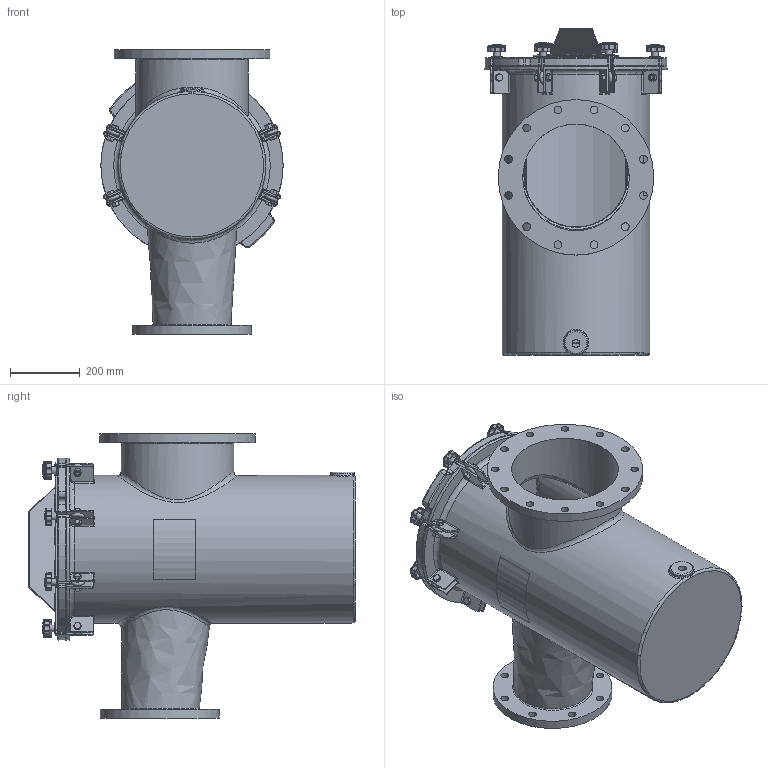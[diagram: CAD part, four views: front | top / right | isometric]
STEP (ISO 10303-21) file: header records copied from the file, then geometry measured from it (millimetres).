
FILE_DESCRIPTION(/* description */ ('300MM X 200MM FIBERGLASS STRAINER BODY'),/* implementation_level */ '2;1');
FILE_NAME(/* name */ 'E:\New folder (7)\Ready for delivery - Do not Disturb -Updated with metric Flange\Workspace\FG Reducing Strainer\Guardian FG Reducing H&L Strainer (Metric)\STRAINER H&L 300MM X 200MM.step',/* time_stamp */ '2016-10-19T04:15:38+06:00',/* author */ ('20076253'),/* organization */ (''),/* preprocessor_version */ 'ST-DEVELOPER v16.1',/* originating_system */ 'Autodesk Inventor 2016',/* authorisation */ '');
FILE_SCHEMA (('AUTOMOTIVE_DESIGN { 1 0 10303 214 3 1 1 }'));
Length unit declared in the file: inch
Products named in the file (24): NBFGBODY12X08MM; 150NBCVR20R2; 150NBGSK16R1; Perforated Basket 16in; Bride (Ring) 16in; Baffle 16in; Handle 16in; Bottom Strainer 16in; NBBSK10T316; BRACESTRCVR16_Welds; BRACE (BASE) FOR 16 BODY; BRACE (PROJ) FOR 16 BODY; Bumper; BRACESTRCVR16; Nut- 1_2  UNC; Bolt-1_2 x 1 1_2  UNC; EyeBolt; Washer; Knob M10; Securing Assembly For FG  with Brace; Securing Assembly For FG without Brace; Label for 16.625 inch (Right); Label for 16.625 inch (Left); STRAINER H&L 300MM X 200MM
Assembly tree (39 placements, depth 3):
  STRAINER H&L 300MM X 200MM
    NBFGBODY12X08MM
    150NBCVR20R2
    150NBGSK16R1
    NBBSK10T316
      Perforated Basket 16in
      Bride (Ring) 16in
      Baffle 16in
      Handle 16in
      Bottom Strainer 16in
    BRACESTRCVR16
      BRACESTRCVR16_Welds
      BRACE (BASE) FOR 16 BODY
      BRACE (PROJ) FOR 16 BODY
      Bumper  x6
    Securing Assembly For FG  with Brace  x2
      Nut- 1_2  UNC
      Bolt-1_2 x 1 1_2  UNC
      EyeBolt
      Washer
      Knob M10
    Securing Assembly For FG without Brace  x6
      Nut- 1_2  UNC
      Bolt-1_2 x 1 1_2  UNC
      EyeBolt
      Washer
      Knob M10
    Label for 16.625 inch (Right)
    Label for 16.625 inch (Left)
Bounding box: 520.7 x 933.45 x 812.8 mm (x, y, z)
Volume: 23416164.4 mm3; surface area: 5842624.4 mm2
Topology: 66 solids, 66 shells, 1804 faces, 4113 edges, 2430 vertices
Faces by surface type: cylinder 658, plane 500, cone 184, torus 166, sphere 158, bspline 138
Full cylindrical faces by diameter (mm): 3.175 x11, 6.35 x2, 8.382 x8, 9.525 x16, 10.592 x8, 12.7 x8, 15.875 x16, 19 x16, 19.05 x8, 22.098 x20, 22.809 x1, 31.75 x8, 68.263 x1, 295.275 x2, 298.45 x1, 300.99 x1, 304.8 x1, 320.675 x1, 340.36 x1, 406.4 x2, 409.575 x1, 415.925 x1, 422.275 x1, 444.5 x1, 457.2 x1, 463.55 x1
Entity records: 34008 total; most frequent: CARTESIAN_POINT 11217, DIRECTION 4715, ORIENTED_EDGE 4300, EDGE_CURVE 2150, AXIS2_PLACEMENT_3D 1934, VERTEX_POINT 1347, EDGE_LOOP 1167, ADVANCED_FACE 954
